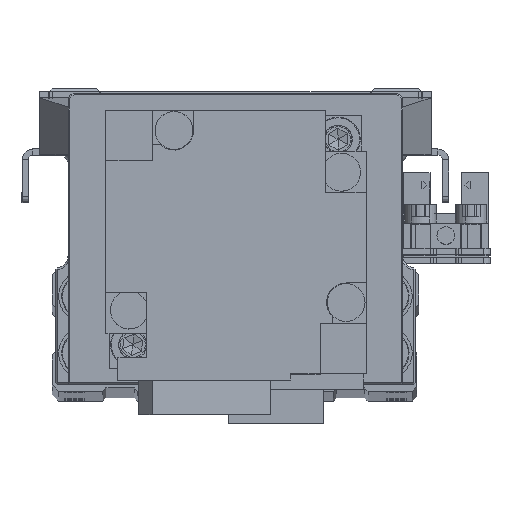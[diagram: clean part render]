
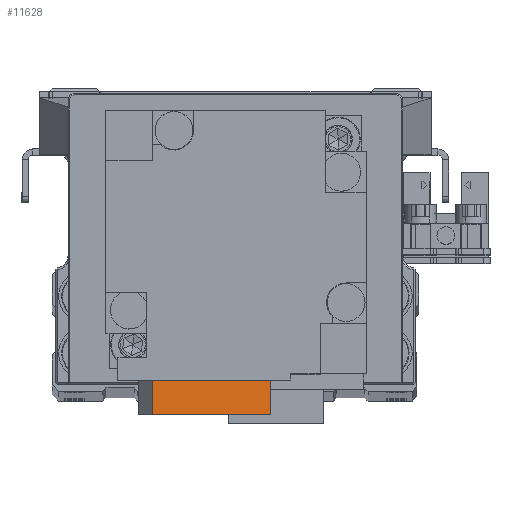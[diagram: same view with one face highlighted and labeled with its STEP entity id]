
A CAD part, top view. The second image highlights one B-rep face of the part: STEP entity #11628.
In plain terms, the highlighted planar face has unit normal (0.156, 0, 0.988) as drawn and (-0.156, 0, -0.988) by its records, which use the part's own axes.
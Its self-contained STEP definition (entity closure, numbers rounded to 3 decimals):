
#202 = DIRECTION ( 'NONE',  ( 0.156, 0., 0.988 ) ) ;
#3378 = FACE_OUTER_BOUND ( 'NONE', #8625, .T. ) ;
#3635 = DIRECTION ( 'NONE',  ( 0.988, 0., -0.156 ) ) ;
#4044 = CARTESIAN_POINT ( 'NONE',  ( 13.183, -22., -79.096 ) ) ;
#4715 = ORIENTED_EDGE ( 'NONE', *, *, #39733, .T. ) ;
#4742 = CARTESIAN_POINT ( 'NONE',  ( -5.583, -24.75, -76.124 ) ) ;
#6970 = DIRECTION ( 'NONE',  ( 0.988, 0., -0.156 ) ) ;
#7060 = ORIENTED_EDGE ( 'NONE', *, *, #32027, .F. ) ;
#7638 = ORIENTED_EDGE ( 'NONE', *, *, #24579, .F. ) ;
#8625 = EDGE_LOOP ( 'NONE', ( #7060, #35474, #7638, #4715 ) ) ;
#9571 = CARTESIAN_POINT ( 'NONE',  ( 13.183, -27.5, -79.096 ) ) ;
#11628 = ADVANCED_FACE ( 'NONE', ( #3378 ), #16334, .F. ) ;
#13143 = DIRECTION ( 'NONE',  ( 0.988, 0., -0.156 ) ) ;
#14060 = EDGE_CURVE ( 'NONE', #36012, #21054, #19765, .T. ) ;
#14610 = AXIS2_PLACEMENT_3D ( 'NONE', #29288, #202, #13143 ) ;
#14740 = LINE ( 'NONE', #27697, #20080 ) ;
#16334 = PLANE ( 'NONE',  #14610 ) ;
#17677 = DIRECTION ( 'NONE',  ( 0., -1., 0. ) ) ;
#19765 = LINE ( 'NONE', #32733, #22978 ) ;
#20080 = VECTOR ( 'NONE', #40673, 1000. ) ;
#21054 = VERTEX_POINT ( 'NONE', #9571 ) ;
#21261 = VECTOR ( 'NONE', #6970, 1000. ) ;
#22978 = VECTOR ( 'NONE', #3635, 1000. ) ;
#23095 = LINE ( 'NONE', #36076, #21261 ) ;
#24579 = EDGE_CURVE ( 'NONE', #32563, #36012, #33842, .T. ) ;
#27697 = CARTESIAN_POINT ( 'NONE',  ( 13.183, -24.75, -79.096 ) ) ;
#29288 = CARTESIAN_POINT ( 'NONE',  ( 3.8, -24.75, -77.61 ) ) ;
#31005 = CARTESIAN_POINT ( 'NONE',  ( -5.583, -27.5, -76.124 ) ) ;
#32027 = EDGE_CURVE ( 'NONE', #21054, #39379, #14740, .T. ) ;
#32563 = VERTEX_POINT ( 'NONE', #35038 ) ;
#32733 = CARTESIAN_POINT ( 'NONE',  ( 3.8, -27.5, -77.61 ) ) ;
#33842 = LINE ( 'NONE', #4742, #41591 ) ;
#35038 = CARTESIAN_POINT ( 'NONE',  ( -5.583, -22., -76.124 ) ) ;
#35474 = ORIENTED_EDGE ( 'NONE', *, *, #14060, .F. ) ;
#36012 = VERTEX_POINT ( 'NONE', #31005 ) ;
#36076 = CARTESIAN_POINT ( 'NONE',  ( -5.583, -22., -76.124 ) ) ;
#39379 = VERTEX_POINT ( 'NONE', #4044 ) ;
#39733 = EDGE_CURVE ( 'NONE', #32563, #39379, #23095, .T. ) ;
#40673 = DIRECTION ( 'NONE',  ( 0., 1., 0. ) ) ;
#41591 = VECTOR ( 'NONE', #17677, 1000. ) ;
